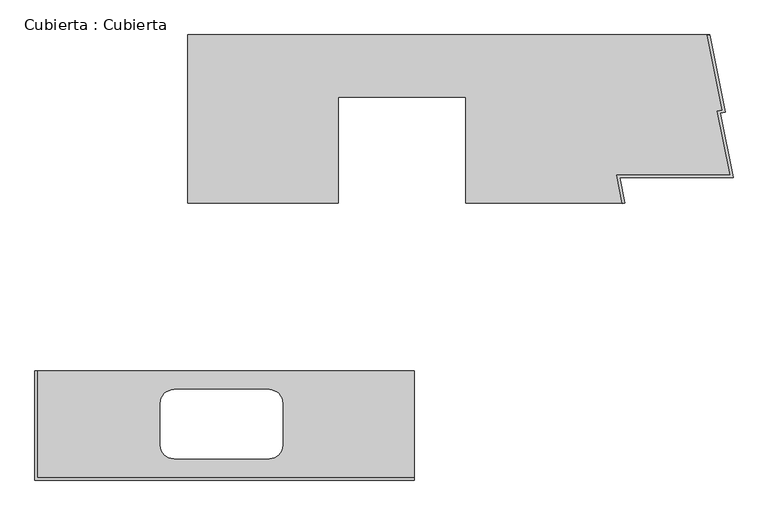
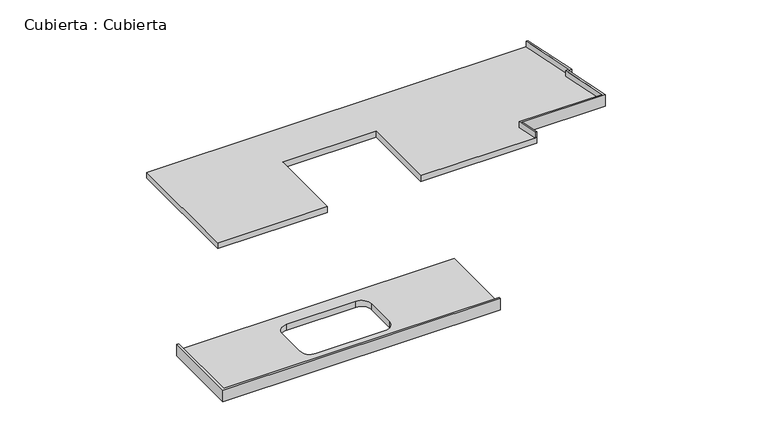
"""IFC4 building model written with IfcOpenShell, lengths in millimetres: furniture geometry, Cubierta : Cubierta."""

from ifc_helpers import new_model, si_unit, frame, origin, place, context, project, spatial, polyline, circle_curve, faceted_brep, source, transform, mapped, element, save
from ifc_brep_helpers import plane_surface, revolved_surface, advanced_brep


def cubierta_cubierta_f0816a31(model_context):
    return source(origin(), model_context, "Body", "SolidModel", [
        faceted_brep([(53596.8299914, 31694.0100923, 900.0), (50494.4822189, 31694.0100923, 900.0), (50494.4822189, 30694.0100923, 900.0), (51386.9822189, 30694.0100923, 900.0), (51386.9822189, 31324.0100923, 900.0), (52146.9822189, 31324.0100923, 900.0), (52146.9822189, 30694.0100923, 900.0), (53076.2527252, 30694.0100923, 900.0), (53043.2050675, 30859.0100923, 900.0), (53718.1774416, 30859.0100923, 900.0), (53642.0491598, 31239.1025825, 900.0), (53671.4649451, 31244.9942358, 900.0), (53582.1220988, 31691.0642656, 900.0), (53596.8299914, 31694.0100923, 850.0), (53689.1186644, 31233.2321699, 850.0), (53659.7028791, 31227.3405166, 850.0), (53736.479683, 30844.0100923, 850.0), (53061.5073088, 30844.0100923, 850.0), (53091.550634, 30694.0100923, 850.0), (52146.9822189, 30694.0100923, 850.0), (52146.9822189, 31324.0100923, 850.0), (51386.9822189, 31324.0100923, 850.0), (51386.9822189, 30694.0100923, 850.0), (50494.4822189, 30694.0100923, 850.0), (50494.4822189, 31694.0100923, 850.0), (53659.7028791, 31227.3405166, 950.0), (53736.479683, 30844.0100923, 950.0), (53091.550634, 30694.0100923, 950.0), (53076.8427413, 30691.0642656, 950.0), (53076.8427413, 30691.0642656, 900.0), (53091.550634, 30694.0100923, 900.0), (53596.8299914, 31694.0100923, 950.0), (53582.1220988, 31691.0642656, 950.0), (53061.5073088, 30844.0100923, 950.0), (53689.1186644, 31233.2321699, 950.0), (53671.4649451, 31244.9942358, 950.0), (53642.0491598, 31239.1025825, 950.0), (53718.1774416, 30859.0100923, 950.0), (53043.2050675, 30859.0100923, 950.0)], [[[0, 1, 2, 3, 4, 5, 6, 7, 8, 9, 10, 11, 12]], [[13, 14, 15, 16, 17, 18, 19, 20, 21, 22, 23, 24]], [[2, 1, 24, 23]], [[3, 2, 23, 22]], [[16, 15, 25, 26]], [[1, 0, 13, 24]], [[5, 4, 21, 20]], [[6, 5, 20, 19]], [[4, 3, 22, 21]], [[27, 28, 29, 30]], [[31, 0, 12, 32]], [[18, 17, 33, 27, 30]], [[33, 17, 16, 26]], [[25, 15, 14, 34]], [[34, 14, 13, 0, 31]], [[28, 27, 33, 26, 25, 34, 31, 32, 35, 36, 37, 38]], [[29, 28, 38, 8, 7]], [[30, 29, 7]], [[38, 37, 9, 8]], [[37, 36, 10, 9]], [[36, 35, 11, 10]], [[32, 12, 11, 35]], [[19, 18, 30, 7, 6]]]),
        advanced_brep(
        [(51840.7527484, 29694.0100923, 900.0), (49599.5059119, 29694.0100923, 900.0), (49599.5059119, 29059.0100923, 900.0), (51840.7527484, 29059.0100923, 900.0), (50977.0059119, 29582.5100923, 900.0), (51058.0059119, 29501.5100923, 900.0), (51058.0059119, 29251.5100923, 900.0), (50977.0059119, 29170.5100923, 900.0), (50412.0059119, 29170.5100923, 900.0), (50331.0059119, 29251.5100923, 900.0), (50331.0059119, 29501.5100923, 900.0), (50412.0059119, 29582.5100923, 900.0), (49584.5059119, 29694.0100923, 850.0), (51840.7527484, 29694.0100923, 850.0), (51840.7527484, 29044.0100923, 850.0), (49584.5059119, 29044.0100923, 850.0), (50977.0059119, 29582.5100923, 850.0), (50412.0059119, 29582.5100923, 850.0), (50331.0059119, 29501.5100923, 850.0), (50331.0059119, 29251.5100923, 850.0), (50412.0059119, 29170.5100923, 850.0), (50977.0059119, 29170.5100923, 850.0), (51058.0059119, 29251.5100923, 850.0), (51058.0059119, 29501.5100923, 850.0), (49584.5059119, 29694.0100923, 950.0), (49599.5059119, 29694.0100923, 950.0), (49599.5059119, 29059.0100923, 950.0), (51840.7527484, 29059.0100923, 950.0), (51840.7527484, 29044.0100923, 950.0), (49584.5059119, 29044.0100923, 950.0)],
        [
            (0, 1),
            (1, 2),
            (2, 3),
            (3, 0),
            (4, 5, circle_curve(frame((50977.0059119, 29501.5100923, 900.0), z_axis=(0.0, 0.0, -1.0), x_axis=(1.0, 0.0, 0.0)), 81.0)),
            (5, 6),
            (6, 7, circle_curve(frame((50977.0059119, 29251.5100923, 900.0), z_axis=(0.0, 0.0, -1.0), x_axis=(1.0, 0.0, 0.0)), 81.0)),
            (7, 8),
            (8, 9, circle_curve(frame((50412.0059119, 29251.5100923, 900.0), z_axis=(0.0, 0.0, -1.0), x_axis=(1.0, 0.0, 0.0)), 81.0)),
            (9, 10),
            (10, 11, circle_curve(frame((50412.0059119, 29501.5100923, 900.0), z_axis=(0.0, 0.0, -1.0), x_axis=(1.0, 0.0, 0.0)), 81.0)),
            (11, 4),
            (12, 13),
            (13, 14),
            (14, 15),
            (15, 12),
            (16, 17),
            (17, 18, circle_curve(frame((50412.0059119, 29501.5100923, 850.0), z_axis=(0.0, 0.0, 1.0), x_axis=(1.0, 0.0, 0.0)), 81.0)),
            (18, 19),
            (19, 20, circle_curve(frame((50412.0059119, 29251.5100923, 850.0), z_axis=(0.0, 0.0, 1.0), x_axis=(1.0, 0.0, 0.0)), 81.0)),
            (20, 21),
            (21, 22, circle_curve(frame((50977.0059119, 29251.5100923, 850.0), z_axis=(0.0, 0.0, 1.0), x_axis=(1.0, 0.0, 0.0)), 81.0)),
            (22, 23),
            (23, 16, circle_curve(frame((50977.0059119, 29501.5100923, 850.0), z_axis=(0.0, 0.0, 1.0), x_axis=(1.0, 0.0, 0.0)), 81.0)),
            (24, 25),
            (25, 1),
            (0, 13),
            (12, 24),
            (2, 26),
            (26, 27),
            (27, 3),
            (28, 29),
            (29, 15),
            (14, 28),
            (27, 28),
            (24, 29),
            (26, 25),
            (4, 16),
            (23, 5),
            (22, 6),
            (21, 7),
            (20, 8),
            (19, 9),
            (18, 10),
            (17, 11),
        ],
        [
            plane_surface(frame((49584.5059119, 29271.4793592, 900.0), z_axis=(0.0, 0.0, 1.0), x_axis=(0.0, -1.0, 0.0))),
            plane_surface(frame((49584.5059119, 29271.4793592, 850.0), z_axis=(0.0, 0.0, -1.0), x_axis=(0.0, 1.0, 0.0))),
            plane_surface(frame((49584.5059119, 29694.0100923, 0.0), z_axis=(0.0, 1.0, 0.0), x_axis=(0.0, 0.0, 1.0))),
            plane_surface(frame((49599.5059119, 29059.0100923, 950.0), z_axis=(0.0, 1.0, 0.0), x_axis=(1.0, 0.0, 0.0))),
            plane_surface(frame((49584.5059119, 29044.0100923, 900.0), z_axis=(0.0, -1.0, 0.0), x_axis=(1.0, 0.0, 0.0))),
            plane_surface(frame((51840.7527484, 29044.0100923, 0.0), z_axis=(1.0, 0.0, 0.0), x_axis=(0.0, 0.0, 1.0))),
            plane_surface(frame((49584.5059119, 29694.0100923, 950.0), z_axis=(0.0, 0.0, 1.0), x_axis=(0.0, -1.0, 0.0))),
            plane_surface(frame((49599.5059119, 29694.0100923, 950.0), z_axis=(1.0, 0.0, 0.0), x_axis=(0.0, -1.0, 0.0))),
            plane_surface(frame((49584.5059119, 29694.0100923, 900.0), z_axis=(-1.0, 0.0, 0.0), x_axis=(0.0, -1.0, 0.0))),
            revolved_surface(polyline([(51058.0059119, 29501.5100923, 850.0), (51058.0059119, 29501.5100923, 900.0)]), (50977.0059119, 29501.5100923, 0.0), (0.0, 0.0, -1.0)),
            plane_surface(frame((51058.0059119, 29501.5100923, 900.0), z_axis=(-1.0, 0.0, 0.0), x_axis=(0.0, 0.0, -1.0))),
            revolved_surface(polyline([(51058.0059119, 29251.5100923, 850.0), (51058.0059119, 29251.5100923, 900.0)]), (50977.0059119, 29251.5100923, 0.0), (0.0, 0.0, -1.0)),
            plane_surface(frame((50977.0059119, 29170.5100923, 900.0), z_axis=(0.0, 1.0, 0.0), x_axis=(0.0, 0.0, -1.0))),
            revolved_surface(polyline([(50493.0059119, 29251.5100923, 850.0), (50493.0059119, 29251.5100923, 900.0)]), (50412.0059119, 29251.5100923, 0.0), (0.0, 0.0, -1.0)),
            plane_surface(frame((50331.0059119, 29251.5100923, 900.0), z_axis=(1.0, 0.0, 0.0), x_axis=(0.0, 0.0, -1.0))),
            revolved_surface(polyline([(50493.0059119, 29501.5100923, 850.0), (50493.0059119, 29501.5100923, 900.0)]), (50412.0059119, 29501.5100923, 0.0), (0.0, 0.0, -1.0)),
            plane_surface(frame((50412.0059119, 29582.5100923, 900.0), z_axis=(0.0, -1.0, 0.0), x_axis=(0.0, 0.0, -1.0))),
        ],
        [
            (0, [[1, 2, 3, 4], [5, 6, 7, 8, 9, 10, 11, 12]]),
            (1, [[13, 14, 15, 16], [17, 18, 19, 20, 21, 22, 23, 24]]),
            (2, [[25, 26, -1, 27, -13, 28]]),
            (3, [[29, 30, 31, -3]]),
            (4, [[32, 33, -15, 34]]),
            (5, [[-31, 35, -34, -14, -27, -4]]),
            (6, [[-25, 36, -32, -35, -30, 37]]),
            (7, [[-26, -37, -29, -2]]),
            (8, [[-36, -28, -16, -33]]),
            (9, [[-5, 38, -24, 39]]),
            (10, [[-6, -39, -23, 40]]),
            (11, [[-7, -40, -22, 41]]),
            (12, [[-8, -41, -21, 42]]),
            (13, [[-9, -42, -20, 43]]),
            (14, [[-10, -43, -19, 44]]),
            (15, [[-11, -44, -18, 45]]),
            (16, [[-12, -45, -17, -38]]),
        ],
    ),
    ])


if __name__ == "__main__":
    model = new_model("IFC4")
    model_context = context("Model", 3, world=origin())
    ifc_project = project(units=[si_unit("LENGTHUNIT", "METRE", prefix="MILLI")], contexts=[model_context])
    site = spatial("IfcSite", under=ifc_project)
    building = spatial("IfcBuilding", under=site)
    placement = place(None, origin())
    cubierta_cubierta_shape = cubierta_cubierta_f0816a31(model_context)
    element("IfcFurniture", 1, ObjectType="Cubierta : Cubierta", at=placement, inside=building, context=model_context, shape_type="MappedRepresentation", body=[
        mapped(cubierta_cubierta_shape, transform((0.0, 0.0, 0.0), x_axis=(1.0, 0.0, 0.0), y_axis=(0.0, 1.0, 0.0), z_axis=(0.0, 0.0, 1.0))),
    ])
    save(model, "model.ifc")
